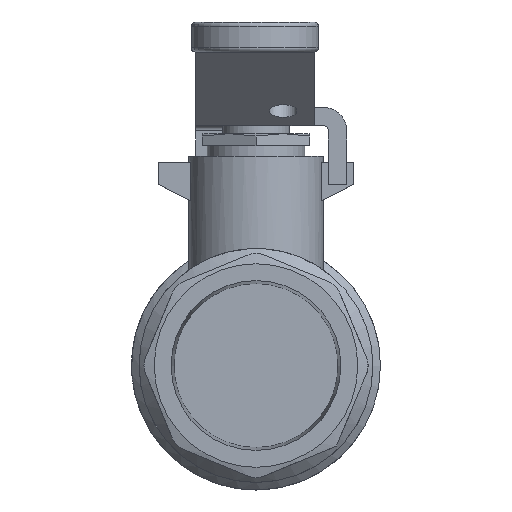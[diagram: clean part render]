
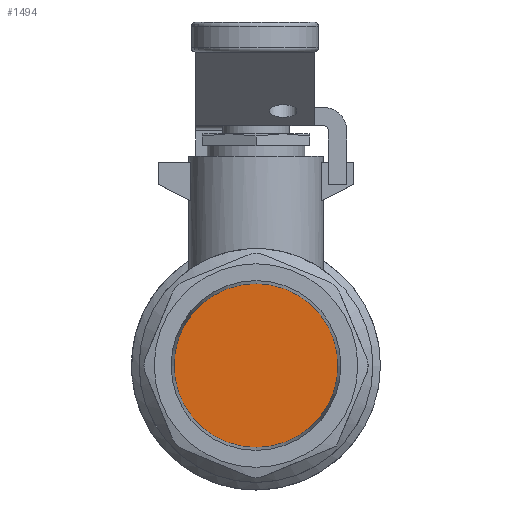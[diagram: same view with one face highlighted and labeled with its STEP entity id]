
A CAD part, left-side view. The second image highlights one B-rep face of the part: STEP entity #1494.
In plain terms, the highlighted free-form (B-spline) face has degree [1, 1] with [2, 2] control points.
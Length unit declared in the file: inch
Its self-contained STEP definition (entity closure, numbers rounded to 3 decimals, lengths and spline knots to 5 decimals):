
#1478=CARTESIAN_POINT('',(0.5533,0.47746,0.47746));
#1479=CARTESIAN_POINT('',(0.5533,-0.47746,0.47746));
#1480=CARTESIAN_POINT('',(0.5533,0.47746,-0.47746));
#1481=CARTESIAN_POINT('',(0.5533,-0.47746,-0.47746));
#1482=B_SPLINE_SURFACE_WITH_KNOTS('',1,1,((#1478,#1480),(#1479,#1481)),.UNSPECIFIED.,.F.,.F.,.U.,(2,2),(2,2),(0.0,0.95492),(0.0,0.95492),.UNSPECIFIED.);
#1483=CARTESIAN_POINT('',(0.5533,0.47746,0.));
#1484=VERTEX_POINT('',#1483);
#1485=CARTESIAN_POINT('',(0.5533,0.0,0.));
#1486=DIRECTION('',(1.0,0.0,0.0));
#1487=DIRECTION('',(0.0,1.0,0.0));
#1488=AXIS2_PLACEMENT_3D('',#1485,#1486,#1487);
#1489=CIRCLE('',#1488,0.47746);
#1490=EDGE_CURVE('',#1484,#1484,#1489,.T.);
#1491=ORIENTED_EDGE('',*,*,#1490,.F.);
#1492=EDGE_LOOP('',(#1491));
#1493=FACE_OUTER_BOUND('',#1492,.T.);
#1494=ADVANCED_FACE('',(#1493),#1482,.F.);
